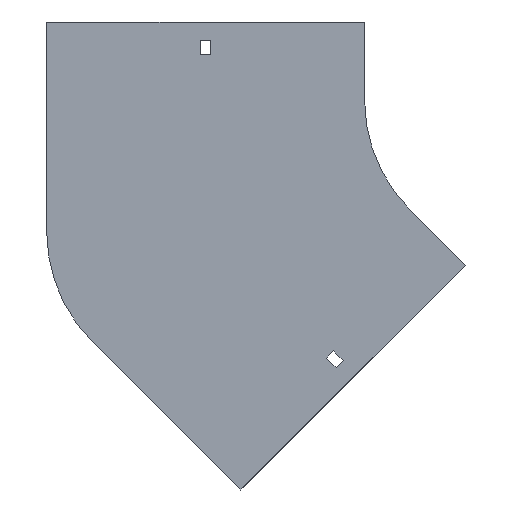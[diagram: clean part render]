
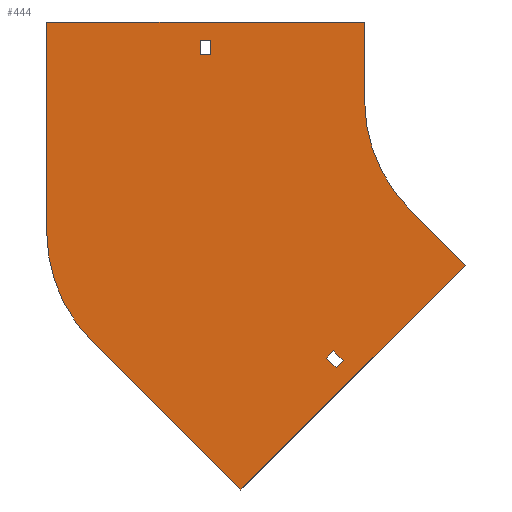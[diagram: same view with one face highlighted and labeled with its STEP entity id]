
A CAD part, front view. The second image highlights one B-rep face of the part: STEP entity #444.
In plain terms, the highlighted planar face has unit normal (0, -1, 0).
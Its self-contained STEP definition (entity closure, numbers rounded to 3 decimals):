
#1 = DIRECTION ( 'NONE',  ( 0., 0., 1. ) ) ;
#16 = VECTOR ( 'NONE', #943, 1000. ) ;
#25 = CARTESIAN_POINT ( 'NONE',  ( -304., 0., 50. ) ) ;
#26 = FACE_BOUND ( 'NONE', #166, .T. ) ;
#27 = VERTEX_POINT ( 'NONE', #1166 ) ;
#32 = CARTESIAN_POINT ( 'NONE',  ( -204., 0., -84.5 ) ) ;
#34 = VERTEX_POINT ( 'NONE', #98 ) ;
#42 = ORIENTED_EDGE ( 'NONE', *, *, #515, .F. ) ;
#96 = VERTEX_POINT ( 'NONE', #1025 ) ;
#98 = CARTESIAN_POINT ( 'NONE',  ( -70.711, 0., -70.711 ) ) ;
#109 = ORIENTED_EDGE ( 'NONE', *, *, #202, .F. ) ;
#110 = EDGE_CURVE ( 'NONE', #318, #590, #719, .T. ) ;
#122 = ORIENTED_EDGE ( 'NONE', *, *, #1315, .T. ) ;
#125 = CARTESIAN_POINT ( 'NONE',  ( 0., 0., 0. ) ) ;
#142 = VECTOR ( 'NONE', #692, 1000. ) ;
#151 = DIRECTION ( 'NONE',  ( 0., 0., 1. ) ) ;
#166 = EDGE_LOOP ( 'NONE', ( #558, #1257, #1347, #109 ) ) ;
#179 = VECTOR ( 'NONE', #1301, 1000. ) ;
#180 = EDGE_CURVE ( 'NONE', #1037, #873, #494, .T. ) ;
#186 = CARTESIAN_POINT ( 'NONE',  ( -124.628, 0., -165.64 ) ) ;
#202 = EDGE_CURVE ( 'NONE', #1165, #1134, #1244, .T. ) ;
#216 = VECTOR ( 'NONE', #749, 1000. ) ;
#222 = VECTOR ( 'NONE', #1230, 1000. ) ;
#225 = LINE ( 'NONE', #1086, #216 ) ;
#236 = EDGE_CURVE ( 'NONE', #411, #1277, #1376, .T. ) ;
#247 = CARTESIAN_POINT ( 'NONE',  ( -179.605, 0., -250.316 ) ) ;
#261 = CARTESIAN_POINT ( 'NONE',  ( -120.031, 0., -161.044 ) ) ;
#264 = CARTESIAN_POINT ( 'NONE',  ( -205.25, 0., 29. ) ) ;
#318 = VERTEX_POINT ( 'NONE', #1055 ) ;
#326 = CARTESIAN_POINT ( 'NONE',  ( -120.031, 0., -161.044 ) ) ;
#328 = ORIENTED_EDGE ( 'NONE', *, *, #236, .F. ) ;
#360 = ORIENTED_EDGE ( 'NONE', *, *, #402, .F. ) ;
#383 = CARTESIAN_POINT ( 'NONE',  ( -205.25, 0., 38. ) ) ;
#386 = ORIENTED_EDGE ( 'NONE', *, *, #1050, .F. ) ;
#402 = EDGE_CURVE ( 'NONE', #27, #517, #963, .T. ) ;
#407 = DIRECTION ( 'NONE',  ( 0., 0., -1. ) ) ;
#411 = VERTEX_POINT ( 'NONE', #1298 ) ;
#412 = LINE ( 'NONE', #754, #179 ) ;
#424 = DIRECTION ( 'NONE',  ( -0.707, 0., -0.707 ) ) ;
#427 = VERTEX_POINT ( 'NONE', #1281 ) ;
#438 = DIRECTION ( 'NONE',  ( -1., 0., 0. ) ) ;
#441 = CARTESIAN_POINT ( 'NONE',  ( -304., 0., 50. ) ) ;
#444 = ADVANCED_FACE ( 'NONE', ( #668, #878, #26 ), #1117, .T. ) ;
#466 = DIRECTION ( 'NONE',  ( 1., 0., 0. ) ) ;
#493 = CARTESIAN_POINT ( 'NONE',  ( -179.605, 0., -250.316 ) ) ;
#494 = LINE ( 'NONE', #383, #812 ) ;
#504 = EDGE_CURVE ( 'NONE', #1277, #96, #990, .T. ) ;
#515 = EDGE_CURVE ( 'NONE', #517, #34, #804, .T. ) ;
#517 = VERTEX_POINT ( 'NONE', #730 ) ;
#543 = DIRECTION ( 'NONE',  ( 0., 0., -1. ) ) ;
#547 = VECTOR ( 'NONE', #438, 1000. ) ;
#558 = ORIENTED_EDGE ( 'NONE', *, *, #939, .F. ) ;
#561 = LINE ( 'NONE', #782, #753 ) ;
#585 = LINE ( 'NONE', #625, #632 ) ;
#590 = VERTEX_POINT ( 'NONE', #441 ) ;
#622 = DIRECTION ( 'NONE',  ( 0., 0., -1. ) ) ;
#625 = CARTESIAN_POINT ( 'NONE',  ( -124.628, 0., -165.64 ) ) ;
#632 = VECTOR ( 'NONE', #1058, 1000. ) ;
#668 = FACE_BOUND ( 'NONE', #1383, .T. ) ;
#679 = EDGE_LOOP ( 'NONE', ( #779, #1282, #386, #1187, #328, #685, #42, #360 ) ) ;
#685 = ORIENTED_EDGE ( 'NONE', *, *, #1339, .F. ) ;
#692 = DIRECTION ( 'NONE',  ( -0.707, 0., 0.707 ) ) ;
#719 = LINE ( 'NONE', #1276, #1014 ) ;
#730 = CARTESIAN_POINT ( 'NONE',  ( -100., 0., 0. ) ) ;
#731 = VERTEX_POINT ( 'NONE', #186 ) ;
#733 = AXIS2_PLACEMENT_3D ( 'NONE', #1073, #966, #407 ) ;
#734 = CARTESIAN_POINT ( 'NONE',  ( -205.25, 0., 29. ) ) ;
#749 = DIRECTION ( 'NONE',  ( 0.707, 0., 0.707 ) ) ;
#752 = VERTEX_POINT ( 'NONE', #264 ) ;
#753 = VECTOR ( 'NONE', #871, 1000. ) ;
#754 = CARTESIAN_POINT ( 'NONE',  ( -70.711, 0., -70.711 ) ) ;
#776 = VECTOR ( 'NONE', #1, 1000. ) ;
#779 = ORIENTED_EDGE ( 'NONE', *, *, #1100, .F. ) ;
#782 = CARTESIAN_POINT ( 'NONE',  ( -124.628, 0., -165.64 ) ) ;
#786 = EDGE_CURVE ( 'NONE', #731, #1145, #585, .T. ) ;
#804 = CIRCLE ( 'NONE', #733, 100. ) ;
#811 = DIRECTION ( 'NONE',  ( 0., 0., 1. ) ) ;
#812 = VECTOR ( 'NONE', #818, 1000. ) ;
#818 = DIRECTION ( 'NONE',  ( 1., 0., 0. ) ) ;
#829 = EDGE_CURVE ( 'NONE', #873, #427, #968, .T. ) ;
#836 = VECTOR ( 'NONE', #424, 1000. ) ;
#843 = ORIENTED_EDGE ( 'NONE', *, *, #180, .T. ) ;
#871 = DIRECTION ( 'NONE',  ( -0.707, 0., -0.707 ) ) ;
#872 = DIRECTION ( 'NONE',  ( 0., -1., 0. ) ) ;
#873 = VERTEX_POINT ( 'NONE', #1121 ) ;
#878 = FACE_OUTER_BOUND ( 'NONE', #679, .T. ) ;
#888 = AXIS2_PLACEMENT_3D ( 'NONE', #32, #890, #151 ) ;
#890 = DIRECTION ( 'NONE',  ( 0., 1., 0. ) ) ;
#897 = LINE ( 'NONE', #25, #1074 ) ;
#935 = CIRCLE ( 'NONE', #888, 100. ) ;
#939 = EDGE_CURVE ( 'NONE', #1145, #1165, #225, .T. ) ;
#943 = DIRECTION ( 'NONE',  ( -0.707, 0., 0.707 ) ) ;
#963 = LINE ( 'NONE', #1163, #993 ) ;
#966 = DIRECTION ( 'NONE',  ( 0., -1., 0. ) ) ;
#968 = LINE ( 'NONE', #1003, #222 ) ;
#982 = CARTESIAN_POINT ( 'NONE',  ( -205.25, 0., 29. ) ) ;
#990 = LINE ( 'NONE', #247, #16 ) ;
#993 = VECTOR ( 'NONE', #622, 1000. ) ;
#1003 = CARTESIAN_POINT ( 'NONE',  ( -198.75, 0., 29. ) ) ;
#1005 = LINE ( 'NONE', #982, #547 ) ;
#1014 = VECTOR ( 'NONE', #811, 1000. ) ;
#1025 = CARTESIAN_POINT ( 'NONE',  ( -274.711, 0., -155.21 ) ) ;
#1037 = VERTEX_POINT ( 'NONE', #1093 ) ;
#1050 = EDGE_CURVE ( 'NONE', #96, #318, #935, .T. ) ;
#1055 = CARTESIAN_POINT ( 'NONE',  ( -304., 0., -84.5 ) ) ;
#1058 = DIRECTION ( 'NONE',  ( 0.707, 0., -0.707 ) ) ;
#1060 = ORIENTED_EDGE ( 'NONE', *, *, #829, .T. ) ;
#1073 = CARTESIAN_POINT ( 'NONE',  ( 0., 0., 0. ) ) ;
#1074 = VECTOR ( 'NONE', #466, 1000. ) ;
#1077 = LINE ( 'NONE', #734, #776 ) ;
#1084 = EDGE_CURVE ( 'NONE', #427, #752, #1005, .T. ) ;
#1086 = CARTESIAN_POINT ( 'NONE',  ( -118.264, 0., -172.004 ) ) ;
#1093 = CARTESIAN_POINT ( 'NONE',  ( -205.25, 0., 38. ) ) ;
#1100 = EDGE_CURVE ( 'NONE', #590, #27, #897, .T. ) ;
#1110 = CARTESIAN_POINT ( 'NONE',  ( -118.264, 0., -172.004 ) ) ;
#1116 = CARTESIAN_POINT ( 'NONE',  ( -113.667, 0., -167.408 ) ) ;
#1117 = PLANE ( 'NONE',  #1341 ) ;
#1121 = CARTESIAN_POINT ( 'NONE',  ( -198.75, 0., 38. ) ) ;
#1134 = VERTEX_POINT ( 'NONE', #326 ) ;
#1145 = VERTEX_POINT ( 'NONE', #1110 ) ;
#1163 = CARTESIAN_POINT ( 'NONE',  ( -100., 0., 50. ) ) ;
#1164 = EDGE_CURVE ( 'NONE', #1134, #731, #561, .T. ) ;
#1165 = VERTEX_POINT ( 'NONE', #1116 ) ;
#1166 = CARTESIAN_POINT ( 'NONE',  ( -100., 0., 50. ) ) ;
#1179 = ORIENTED_EDGE ( 'NONE', *, *, #1084, .T. ) ;
#1187 = ORIENTED_EDGE ( 'NONE', *, *, #504, .F. ) ;
#1230 = DIRECTION ( 'NONE',  ( 0., 0., -1. ) ) ;
#1244 = LINE ( 'NONE', #261, #142 ) ;
#1257 = ORIENTED_EDGE ( 'NONE', *, *, #786, .F. ) ;
#1276 = CARTESIAN_POINT ( 'NONE',  ( -304., 0., -84.5 ) ) ;
#1277 = VERTEX_POINT ( 'NONE', #493 ) ;
#1281 = CARTESIAN_POINT ( 'NONE',  ( -198.75, 0., 29. ) ) ;
#1282 = ORIENTED_EDGE ( 'NONE', *, *, #110, .F. ) ;
#1298 = CARTESIAN_POINT ( 'NONE',  ( -35.355, 0., -106.066 ) ) ;
#1301 = DIRECTION ( 'NONE',  ( 0.707, 0., -0.707 ) ) ;
#1315 = EDGE_CURVE ( 'NONE', #752, #1037, #1077, .T. ) ;
#1339 = EDGE_CURVE ( 'NONE', #34, #411, #412, .T. ) ;
#1341 = AXIS2_PLACEMENT_3D ( 'NONE', #125, #872, #543 ) ;
#1347 = ORIENTED_EDGE ( 'NONE', *, *, #1164, .F. ) ;
#1376 = LINE ( 'NONE', #1398, #836 ) ;
#1383 = EDGE_LOOP ( 'NONE', ( #122, #843, #1060, #1179 ) ) ;
#1398 = CARTESIAN_POINT ( 'NONE',  ( -35.355, 0., -106.066 ) ) ;
